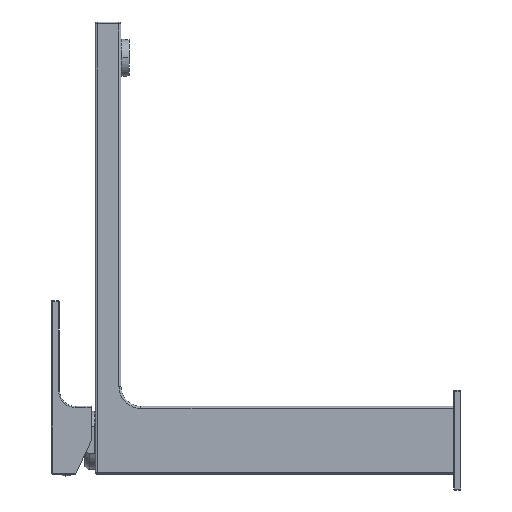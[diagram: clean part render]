
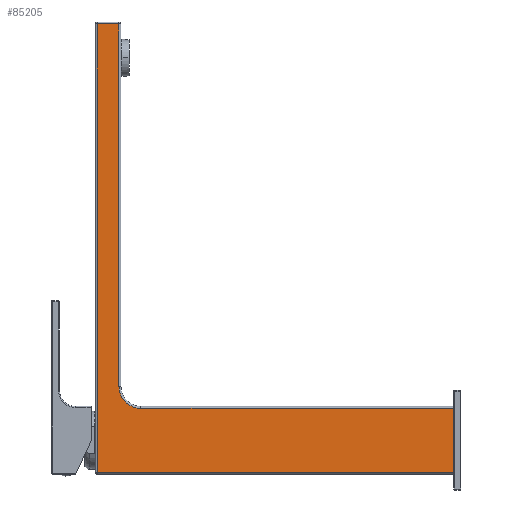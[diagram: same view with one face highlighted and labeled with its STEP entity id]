
A CAD part, left-side view. The second image highlights one B-rep face of the part: STEP entity #85205.
In plain terms, the highlighted planar face has unit normal (-1, 0, 0).
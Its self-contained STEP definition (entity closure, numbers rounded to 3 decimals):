
#38397=DIRECTION('',(0.,0.,1.));
#38398=VECTOR('',#38397,32.);
#38399=CARTESIAN_POINT('',(-17.,0.,-16.));
#38400=LINE('',#38399,#38398);
#38401=DIRECTION('',(0.,-1.,0.));
#38402=VECTOR('',#38401,179.);
#38403=CARTESIAN_POINT('',(-17.,179.,-16.));
#38404=LINE('',#38403,#38402);
#38405=DIRECTION('',(0.,0.,-1.));
#38406=VECTOR('',#38405,225.);
#38407=CARTESIAN_POINT('',(-17.,179.,209.));
#38408=LINE('',#38407,#38406);
#38409=DIRECTION('',(0.,1.,0.));
#38410=VECTOR('',#38409,11.);
#38411=CARTESIAN_POINT('',(-17.,168.,209.));
#38412=LINE('',#38411,#38410);
#38413=DIRECTION('',(0.,0.,-1.));
#38414=VECTOR('',#38413,182.);
#38415=CARTESIAN_POINT('',(-17.,168.,209.));
#38416=LINE('',#38415,#38414);
#38417=CARTESIAN_POINT('',(-17.,157.,27.));
#38418=DIRECTION('',(-1.,0.,0.));
#38419=DIRECTION('',(0.,1.,0.));
#38420=AXIS2_PLACEMENT_3D('',#38417,#38418,#38419);
#38422=DIRECTION('',(0.,-1.,0.));
#38423=VECTOR('',#38422,157.);
#38424=CARTESIAN_POINT('',(-17.,157.,16.));
#38425=LINE('',#38424,#38423);
#38601=CARTESIAN_POINT('',(-17.,179.,-16.));
#38602=VERTEX_POINT('',#38601);
#38603=CARTESIAN_POINT('',(-17.,179.,209.));
#38604=VERTEX_POINT('',#38603);
#38609=CARTESIAN_POINT('',(-17.,168.,27.));
#38610=CARTESIAN_POINT('',(-17.,157.,16.));
#38611=VERTEX_POINT('',#38609);
#38612=VERTEX_POINT('',#38610);
#38615=CARTESIAN_POINT('',(-17.,168.,209.));
#38616=VERTEX_POINT('',#38615);
#43224=CARTESIAN_POINT('',(-17.,0.,-16.));
#43225=CARTESIAN_POINT('',(-17.,0.,16.));
#43226=VERTEX_POINT('',#43224);
#43227=VERTEX_POINT('',#43225);
#85187=CARTESIAN_POINT('',(-17.,-120.,-17.));
#85188=DIRECTION('',(-1.,0.,0.));
#85189=DIRECTION('',(0.,0.,1.));
#85190=AXIS2_PLACEMENT_3D('',#85187,#85188,#85189);
#85191=PLANE('',#85190);
#85192=ORIENTED_EDGE('',*,*,#43494,.F.);
#85194=ORIENTED_EDGE('',*,*,#85193,.F.);
#85196=ORIENTED_EDGE('',*,*,#85195,.F.);
#85198=ORIENTED_EDGE('',*,*,#85197,.F.);
#85199=ORIENTED_EDGE('',*,*,#43344,.T.);
#85200=ORIENTED_EDGE('',*,*,#43360,.T.);
#85202=ORIENTED_EDGE('',*,*,#85201,.T.);
#85203=EDGE_LOOP('',(#85192,#85194,#85196,#85198,#85199,#85200,#85202));
#85204=FACE_OUTER_BOUND('',#85203,.F.);
#85205=ADVANCED_FACE('',(#85204),#85191,.T.);
#38421=CIRCLE('',#38420,11.);
#43344=EDGE_CURVE('',#38616,#38611,#38416,.T.);
#43360=EDGE_CURVE('',#38611,#38612,#38421,.T.);
#43494=EDGE_CURVE('',#43226,#43227,#38400,.T.);
#85193=EDGE_CURVE('',#38602,#43226,#38404,.T.);
#85195=EDGE_CURVE('',#38604,#38602,#38408,.T.);
#85197=EDGE_CURVE('',#38616,#38604,#38412,.T.);
#85201=EDGE_CURVE('',#38612,#43227,#38425,.T.);
